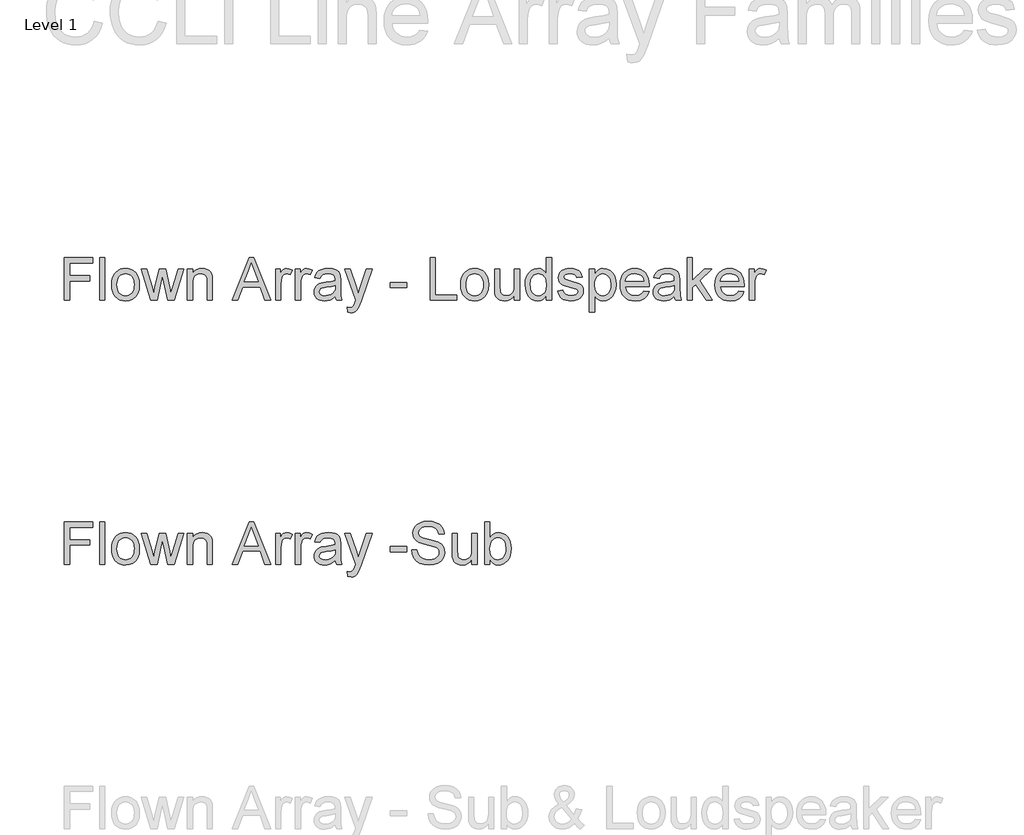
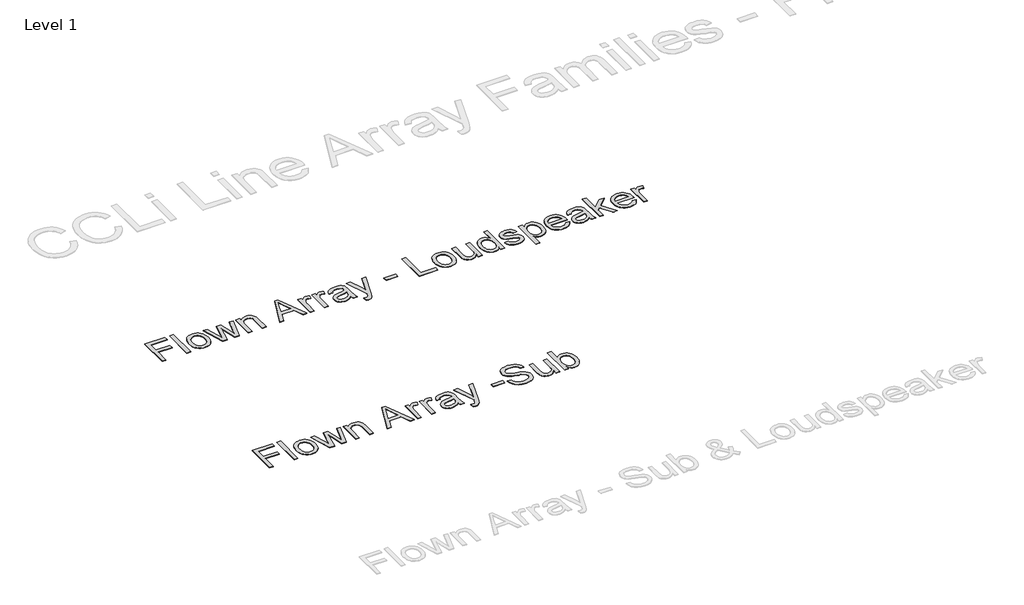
# One storey, part 27 of 31: 2 proxies.
"""IFC4 building model written with IfcOpenShell, lengths in millimetres."""

from ifc_helpers import new_model, si_unit, origin, origin_with_axes, place, context, project, spatial, polyline, outline, extrude, element, save

model = new_model("IFC4")

# Units and contexts
model_context = context("Model", 3, world=origin())
ifc_project = project(units=[si_unit("LENGTHUNIT", "METRE", prefix="MILLI")], contexts=[model_context])

# Site, building, storey
site = spatial("IfcSite", under=ifc_project)
building = spatial("IfcBuilding", under=site)
storey = spatial("IfcBuildingStorey", under=building, Name="Level 1", Elevation=0.0)

# Proxies
placement = place(None, origin())
element("IfcBuildingElementProxy", 1, Name="400mm Arial", ObjectType="400mm Arial", at=placement, inside=storey, context=model_context, shape_type="SweptSolid", body=[
    extrude(outline(polyline([(1720.3436653, 6663.8227268), (1720.3436653, 7065.6479674), (1990.3199988, 7065.6479674), (1990.3199988, 7015.4198123), (1770.5718204, 7015.4198123), (1770.5718204, 6896.127944), (1958.9274019, 6896.127944), (1958.9274019, 6845.899789), (1770.5718204, 6845.899789), (1770.5718204, 6663.8227268), (1720.3436653, 6663.8227268)])), origin_with_axes(), (0.0, 0.0, 1.0), 5.0),
    extrude(outline(polyline([(2053.1051927, 6663.8227268), (2053.1051927, 7065.6479674), (2103.3333477, 7065.6479674), (2103.3333477, 6663.8227268), (2053.1051927, 6663.8227268)])), origin_with_axes(), (0.0, 0.0, 1.0), 5.0),
    extrude(outline(polyline([(2166.1185416, 6811.3679324), (2168.834737, 6849.5847403), (2176.9833232, 6882.5163102), (2190.5643002, 6910.1626422), (2209.5776679, 6932.5237361), (2228.7197944, 6946.8159516), (2249.8484837, 6957.024677), (2272.9637357, 6963.1499122), (2298.0655505, 6965.1916573), (2325.7762618, 6962.7053881), (2350.8320914, 6955.2465807), (2373.2330392, 6942.8152349), (2392.9791053, 6925.4113509), (2409.0954024, 6903.6235397), (2420.6070431, 6878.0404126), (2427.5140276, 6848.6619696), (2429.8163557, 6815.4882107), (2425.7451283, 6764.7450208), (2413.5314461, 6726.1174113), (2393.5309283, 6697.1896238), (2366.0991942, 6675.5458997), (2333.5171121, 6662.0446305), (2298.0655505, 6657.5442074), (2269.950169, 6660.0212795), (2244.6613476, 6667.4524958), (2222.1990861, 6679.8378563), (2202.5633846, 6697.177361), (2186.6187658, 6719.1767044), (2175.2297523, 6745.5415807), (2168.3963443, 6776.27199), (2166.1185416, 6811.3679324)]), holes=[polyline([(2216.3466967, 6811.4660342), (2217.7998305, 6787.1030491), (2222.1592322, 6766.0080823), (2229.4249016, 6748.181134), (2239.5968388, 6733.622204), (2251.9699365, 6722.3128984), (2265.8390877, 6714.2348229), (2281.2042924, 6709.3879776), (2298.0655505, 6707.7723625), (2314.8409695, 6709.3971747), (2330.1448605, 6714.2716111), (2343.9772235, 6722.3956718), (2356.3380586, 6733.7693568), (2366.5099957, 6748.4723739), (2373.7756651, 6766.5844308), (2378.1350668, 6788.1055275), (2379.5882007, 6813.0356641), (2378.1258697, 6836.626097), (2373.7388769, 6857.1692408), (2366.4272223, 6874.6650953), (2356.1909058, 6889.1136607), (2343.7840855, 6900.4229663), (2329.9609195, 6908.5010418), (2314.7214079, 6913.3478871), (2298.0655505, 6914.9635022), (2281.2042924, 6913.3540185), (2265.8390877, 6908.5255673), (2251.9699365, 6900.4781486), (2239.5968388, 6889.2117625), (2229.4249016, 6874.6957521), (2222.1592322, 6856.8994606), (2217.7998305, 6835.822888), (2216.3466967, 6811.4660342)])]), origin_with_axes(), (0.0, 0.0, 1.0), 5.0),
    extrude(outline(polyline([(2535.6682685, 6663.8227268), (2445.5126542, 6958.9131379), (2497.6047447, 6958.9131379), (2548.6177147, 6786.7443641), (2563.8235038, 6725.2344945), (2576.2824407, 6784.4880212), (2616.7985111, 6958.9131379), (2676.4444453, 6958.9131379), (2716.9605157, 6784.9785306), (2728.0460265, 6731.3168102), (2743.9385287, 6787.9215865), (2794.9514987, 6958.9131379), (2847.3378948, 6958.9131379), (2756.8879749, 6663.8227268), (2696.2610221, 6663.8227268), (2657.6088871, 6836.8744174), (2646.4252745, 6890.8304433), (2596.6876287, 6663.8227268), (2535.6682685, 6663.8227268)])), origin_with_axes(), (0.0, 0.0, 1.0), 5.0),
    extrude(outline(polyline([(2881.8697514, 6663.8227268), (2881.8697514, 6958.9131379), (2932.0979065, 6958.9131379), (2932.0979065, 6917.7103544), (2949.5477758, 6938.4834244), (2970.5047868, 6953.3213316), (2994.9689395, 6962.2240758), (3022.9402338, 6965.1916573), (3047.6986921, 6962.8004243), (3070.3724857, 6955.6267254), (3089.2816203, 6944.5657401), (3102.7461013, 6930.5126479), (3111.8818375, 6913.5042369), (3117.8047376, 6893.5772955), (3120.453488, 6845.0168722), (3120.453488, 6663.8227268), (3070.2253329, 6663.8227268), (3070.2253329, 6838.2478435), (3068.7783304, 6864.2203123), (3064.4373229, 6882.6879885), (3056.4297581, 6895.9194776), (3043.9830839, 6906.1833852), (3028.0292681, 6912.768473), (3009.5002783, 6914.9635022), (2980.0819814, 6910.0338835), (2955.004692, 6895.2450273), (2944.9829734, 6883.1723664), (2937.8246029, 6866.672859), (2933.5295806, 6845.7465048), (2932.0979065, 6820.393304), (2932.0979065, 6663.8227268), (2881.8697514, 6663.8227268)])), origin_with_axes(), (0.0, 0.0, 1.0), 5.0),
    extrude(outline(polyline([(3306.0622173, 6663.8227268), (3466.4587672, 7065.6479674), (3509.2311805, 7065.6479674), (3669.5296285, 6663.8227268), (3616.4565194, 6663.8227268), (3570.5448464, 6789.3931145), (3404.9488976, 6789.3931145), (3359.0372246, 6663.8227268), (3306.0622173, 6663.8227268)]), holes=[polyline([(3423.3920483, 6839.6212696), (3552.1997975, 6839.6212696), (3515.9021074, 6938.409848), (3487.746872, 7015.4198123), (3462.7308963, 6947.0428122), (3423.3920483, 6839.6212696)])]), origin_with_axes(), (0.0, 0.0, 1.0), 5.0),
    extrude(outline(polyline([(3716.9128295, 6663.8227268), (3716.9128295, 6958.9131379), (3760.8624652, 6958.9131379), (3760.8624652, 6915.2578078), (3777.0983239, 6940.5680891), (3792.0588584, 6955.4795726), (3807.0684438, 6962.7636361), (3823.4514553, 6965.1916573), (3848.467431, 6961.3166336), (3873.8758141, 6949.6915625), (3857.1003951, 6904.6628063), (3839.4420594, 6912.3883282), (3821.7837236, 6914.9635022), (3806.7864009, 6912.4864301), (3793.3832336, 6905.0552138), (3782.5552402, 6893.233939), (3775.2834394, 6877.5866915), (3769.1765983, 6849.529558), (3767.1409846, 6818.921776), (3767.1409846, 6663.8227268), (3716.9128295, 6663.8227268)])), origin_with_axes(), (0.0, 0.0, 1.0), 5.0),
    extrude(outline(polyline([(3905.2684111, 6663.8227268), (3905.2684111, 6958.9131379), (3949.2180467, 6958.9131379), (3949.2180467, 6915.2578078), (3965.4539055, 6940.5680891), (3980.4144399, 6955.4795726), (3995.4240253, 6962.7636361), (4011.8070369, 6965.1916573), (4036.8230125, 6961.3166336), (4062.2313957, 6949.6915625), (4045.4559767, 6904.6628063), (4027.7976409, 6912.3883282), (4010.1393051, 6914.9635022), (3995.1419825, 6912.4864301), (3981.7388151, 6905.0552138), (3970.9108217, 6893.233939), (3963.639021, 6877.5866915), (3957.5321798, 6849.529558), (3955.4965661, 6818.921776), (3955.4965661, 6663.8227268), (3905.2684111, 6663.8227268)])), origin_with_axes(), (0.0, 0.0, 1.0), 5.0),
    extrude(outline(polyline([(4281.9795741, 6701.4938431), (4257.9814053, 6680.9169769), (4233.271998, 6667.4524958), (4207.2872664, 6660.0212795), (4179.4631248, 6657.5442074), (4157.0989652, 6659.0341295), (4137.4877891, 6663.5038958), (4120.6295967, 6670.9535062), (4106.5243879, 6681.3829607), (4095.3867605, 6694.1300719), (4087.4313123, 6708.532652), (4082.6580434, 6724.5907011), (4081.0669538, 6742.3042191), (4083.4704495, 6763.1263401), (4090.6809366, 6782.0354746), (4101.8032356, 6798.2222824), (4115.942167, 6810.877423), (4132.5581704, 6820.4423549), (4151.1116857, 6827.3585364), (4194.5708121, 6834.91238), (4245.9271386, 6842.8586311), (4281.6852685, 6852.1783084), (4281.9795741, 6863.361921), (4278.5214834, 6885.7781972), (4268.1472111, 6900.4444261), (4244.9461199, 6911.3337332), (4212.6215553, 6914.9635022), (4182.7004863, 6912.5477438), (4161.804789, 6905.3004685), (4147.5554931, 6891.8973011), (4137.5736283, 6871.0138665), (4087.3454732, 6877.2923859), (4096.0642765, 6904.7609082), (4109.0750364, 6926.3433186), (4127.5917635, 6942.8489574), (4152.8284683, 6955.0871651), (4183.6937677, 6962.6655342), (4219.0962784, 6965.1916573), (4253.0517866, 6962.9598398), (4279.9684859, 6956.2643875), (4300.2633093, 6946.1966836), (4314.3531897, 6933.8481113), (4323.6973924, 6918.5810085), (4329.7551826, 6899.7577131), (4332.2077292, 6855.8080774), (4332.2077292, 6793.3171891), (4334.7583777, 6706.0555799), (4344.764768, 6663.8227268), (4294.5366129, 6663.8227268), (4286.4922599, 6681.2848589), (4281.9795741, 6701.4938431)]), holes=[polyline([(4281.9795741, 6801.9501533), (4248.2325324, 6793.5869693), (4200.9474333, 6786.5481604), (4157.7335616, 6778.4057056), (4146.4886353, 6772.8384247), (4138.1622395, 6765.1619538), (4133.0118915, 6755.9649039), (4131.2951089, 6745.8358863), (4135.0352425, 6730.8998773), (4146.2556434, 6718.6616696), (4164.7110568, 6710.4946893), (4190.1562281, 6707.7723625), (4217.1342411, 6710.7767321), (4240.9729944, 6719.789841), (4260.2990619, 6733.070381), (4273.7390174, 6748.8770441), (4279.6987057, 6765.1619538), (4281.6852685, 6787.7253828), (4281.9795741, 6801.9501533)])]), origin_with_axes(), (0.0, 0.0, 1.0), 5.0),
    extrude(outline(polyline([(4401.2714424, 6550.8093779), (4394.992923, 6599.1735975), (4420.499408, 6594.7590136), (4433.9148381, 6596.1447024), (4444.3381613, 6600.301769), (4458.9553393, 6615.7528128), (4472.6896004, 6652.737216), (4476.613675, 6664.9018473), (4369.8788455, 6958.9131379), (4422.7557509, 6958.9131379), (4479.4586291, 6794.9849208), (4499.1771041, 6729.4528748), (4518.895579, 6787.4310772), (4577.0699852, 6958.9131379), (4629.5544832, 6958.9131379), (4526.8418301, 6656.7593925), (4500.1581227, 6591.2273464), (4486.497438, 6570.3071236), (4471.0218687, 6555.812573), (4453.0692273, 6547.3512871), (4431.9773263, 6544.5308585), (4401.2714424, 6550.8093779)])), origin_with_axes(), (0.0, 0.0, 1.0), 5.0),
    extrude(outline(polyline([(4803.096683, 6783.1145951), (4803.096683, 6833.3427502), (4960.0596676, 6833.3427502), (4960.0596676, 6783.1145951), (4803.096683, 6783.1145951)])), origin_with_axes(), (0.0, 0.0, 1.0), 5.0),
    extrude(outline(polyline([(5179.8078461, 6663.8227268), (5179.8078461, 7065.6479674), (5230.0360011, 7065.6479674), (5230.0360011, 6714.0508819), (5430.9486214, 6714.0508819), (5430.9486214, 6663.8227268), (5179.8078461, 6663.8227268)])), origin_with_axes(), (0.0, 0.0, 1.0), 5.0),
    extrude(outline(polyline([(5468.6197378, 6811.3679324), (5471.3359332, 6849.5847403), (5479.4845193, 6882.5163102), (5493.0654963, 6910.1626422), (5512.0788641, 6932.5237361), (5531.2209906, 6946.8159516), (5552.3496799, 6957.024677), (5575.4649319, 6963.1499122), (5600.5667467, 6965.1916573), (5628.277458, 6962.7053881), (5653.3332875, 6955.2465807), (5675.7342354, 6942.8152349), (5695.4803014, 6925.4113509), (5711.5965985, 6903.6235397), (5723.1082393, 6878.0404126), (5730.0152237, 6848.6619696), (5732.3175519, 6815.4882107), (5728.2463245, 6764.7450208), (5716.0326422, 6726.1174113), (5696.0321244, 6697.1896238), (5668.6003903, 6675.5458997), (5636.0183083, 6662.0446305), (5600.5667467, 6657.5442074), (5572.4513652, 6660.0212795), (5547.1625437, 6667.4524958), (5524.7002822, 6679.8378563), (5505.0645807, 6697.177361), (5489.1199619, 6719.1767044), (5477.7309485, 6745.5415807), (5470.8975404, 6776.27199), (5468.6197378, 6811.3679324)]), holes=[polyline([(5518.8478928, 6811.4660342), (5520.3010267, 6787.1030491), (5524.6604284, 6766.0080823), (5531.9260978, 6748.181134), (5542.0980349, 6733.622204), (5554.4711327, 6722.3128984), (5568.3402839, 6714.2348229), (5583.7054886, 6709.3879776), (5600.5667467, 6707.7723625), (5617.3421657, 6709.3971747), (5632.6460567, 6714.2716111), (5646.4784197, 6722.3956718), (5658.8392547, 6733.7693568), (5669.0111919, 6748.4723739), (5676.2768613, 6766.5844308), (5680.6362629, 6788.1055275), (5682.0893968, 6813.0356641), (5680.6270659, 6836.626097), (5676.2400731, 6857.1692408), (5668.9284184, 6874.6650953), (5658.6921019, 6889.1136607), (5646.2852816, 6900.4229663), (5632.4621157, 6908.5010418), (5617.222604, 6913.3478871), (5600.5667467, 6914.9635022), (5583.7054886, 6913.3540185), (5568.3402839, 6908.5255673), (5554.4711327, 6900.4781486), (5542.0980349, 6889.2117625), (5531.9260978, 6874.6957521), (5524.6604284, 6856.8994606), (5520.3010267, 6835.822888), (5518.8478928, 6811.4660342)])]), origin_with_axes(), (0.0, 0.0, 1.0), 5.0),
    extrude(outline(polyline([(5977.1798079, 6663.8227268), (5977.1798079, 6714.5413912), (5959.0064373, 6689.6051233), (5937.8409599, 6671.7935034), (5913.6833755, 6661.1065314), (5886.5336843, 6657.5442074), (5862.0695316, 6660.045805), (5839.2976361, 6667.5505977), (5820.1922978, 6678.8323122), (5806.7278168, 6692.6646752), (5797.665657, 6709.4646197), (5791.7672823, 6729.6490785), (5788.8242264, 6776.3455664), (5788.8242264, 6958.9131379), (5839.0523814, 6958.9131379), (5839.0523814, 6799.988116), (5842.0935393, 6748.7789422), (5849.414391, 6731.6969549), (5861.959167, 6718.7107205), (5878.8940015, 6710.506952), (5899.3850286, 6707.7723625), (5921.0532782, 6710.5682657), (5941.3235761, 6718.9559752), (5958.0376814, 6732.1629388), (5969.0373531, 6749.4166044), (5975.1441942, 6773.0468912), (5977.1798079, 6805.3837186), (5977.1798079, 6958.9131379), (6027.407963, 6958.9131379), (6027.407963, 6663.8227268), (5977.1798079, 6663.8227268)])), origin_with_axes(), (0.0, 0.0, 1.0), 5.0),
    extrude(outline(polyline([(6278.5487383, 6663.8227268), (6278.5487383, 6711.2059278), (6263.5207588, 6687.7289251), (6245.3167314, 6670.9596375), (6223.9366562, 6660.898065), (6199.380533, 6657.5442074), (6166.9088155, 6662.4002498), (6137.1839503, 6676.9683768), (6112.0208219, 6700.2307816), (6093.2343146, 6731.1696574), (6081.5356672, 6768.5342054), (6077.636118, 6811.0736268), (6081.2290989, 6853.0857506), (6092.0080413, 6891.026647), (6109.9606827, 6922.738075), (6135.0747602, 6946.0617935), (6165.4495503, 6960.4091913), (6199.1843292, 6965.1916573), (6223.7588465, 6961.7703547), (6245.4884097, 6951.506447), (6263.9070349, 6935.7733604), (6278.5487383, 6915.9445208), (6278.5487383, 7065.6479674), (6328.7768934, 7065.6479674), (6328.7768934, 6663.8227268), (6278.5487383, 6663.8227268)]), holes=[polyline([(6127.8642731, 6811.2698305), (6129.2806188, 6786.9129767), (6133.5296558, 6765.8364041), (6140.6113842, 6748.0401126), (6150.525804, 6733.5241022), (6175.2229486, 6714.2102974), (6189.0982312, 6709.3818462), (6203.9913206, 6707.7723625), (6218.9549208, 6709.3082698), (6232.7474299, 6713.9159918), (6256.8191752, 6732.3468798), (6266.325859, 6746.2558849), (6273.1163475, 6763.4083829), (6278.5487383, 6807.4438577), (6273.0182457, 6855.5873482), (6266.1051298, 6874.1224694), (6256.4267677, 6888.9665079), (6244.7250546, 6900.3401929), (6231.7418858, 6908.4642536), (6217.4772615, 6913.33869), (6201.9311815, 6914.9635022), (6186.7437864, 6913.4030694), (6172.8685039, 6908.721771), (6160.3053337, 6900.919607), (6149.054276, 6889.9965775), (6139.7836498, 6875.713559), (6133.1617738, 6857.8314283), (6127.8642731, 6811.2698305)])]), origin_with_axes(), (0.0, 0.0, 1.0), 5.0),
    extrude(outline(polyline([(6385.2835679, 6751.7219982), (6435.5117229, 6758.0005176), (6443.4334486, 6736.5162091), (6458.761865, 6720.7218087), (6481.5950742, 6711.0097241), (6512.0311779, 6707.7723625), (6542.0993997, 6710.7399439), (6563.2403517, 6719.6426882), (6575.7483395, 6732.5430835), (6579.9176688, 6747.503618), (6575.723814, 6760.3059114), (6563.1422498, 6770.067047), (6511.4425667, 6784.3899194), (6435.8060285, 6808.9644366), (6416.6639021, 6821.313009), (6402.7947508, 6837.6592323), (6394.3702532, 6856.9607743), (6391.5620873, 6878.1753027), (6393.8184302, 6897.6362602), (6400.5874589, 6915.6011643), (6411.2560367, 6931.3587764), (6425.2110271, 6944.1978581), (6457.1431843, 6959.0602907), (6478.0266189, 6963.6588156), (6500.357056, 6965.1916573), (6533.0495026, 6962.7268479), (6561.4745181, 6955.3324198), (6584.3322527, 6943.7318742), (6600.3228568, 6928.6487124), (6610.9178582, 6908.9670257), (6617.5887851, 6883.5709053), (6567.36063, 6877.2923859), (6561.020797, 6893.0990489), (6548.4760209, 6905.0061629), (6529.6036746, 6912.4741674), (6504.2811306, 6914.9635022), (6475.4391822, 6912.584532), (6456.2112165, 6905.4476213), (6445.3954859, 6895.1469254), (6441.7902423, 6883.2765997), (6447.7744561, 6868.6594217), (6466.5119124, 6857.5739109), (6509.774835, 6846.8808076), (6583.4983869, 6823.2382581), (6602.9716071, 6811.9320181), (6617.7359379, 6796.4564488), (6627.0433524, 6776.7624993), (6630.1458239, 6752.8011187), (6626.5037921, 6728.0303977), (6615.5776969, 6704.7312047), (6597.784471, 6684.7306869), (6573.5410475, 6669.8559915), (6544.2576407, 6660.6221535), (6511.3444649, 6657.5442074), (6484.3112696, 6659.0279981), (6460.6993769, 6663.4793703), (6440.5087867, 6670.8983239), (6423.7394991, 6681.2848589), (6410.0420261, 6694.5899243), (6399.06688, 6710.7644694), (6390.8140605, 6729.808494), (6385.2835679, 6751.7219982)])), origin_with_axes(), (0.0, 0.0, 1.0), 5.0),
    extrude(outline(polyline([(6686.6524983, 6550.8093779), (6686.6524983, 6958.9131379), (6736.8806534, 6958.9131379), (6736.8806534, 6909.6660015), (6753.2636649, 6933.9584759), (6771.6087137, 6951.3102433), (6792.9949204, 6961.7213038), (6818.5014054, 6965.1916573), (6852.4691763, 6960.3356149), (6882.169516, 6945.7674879), (6906.3516258, 6922.370193), (6923.7647069, 6891.026647), (6934.286132, 6854.0177183), (6937.7932737, 6813.6242753), (6933.8324109, 6770.667921), (6921.9498224, 6732.2487779), (6902.5256531, 6700.3166207), (6875.9400476, 6676.821224), (6844.9766463, 6662.3634616), (6812.4190897, 6657.5442074), (6789.3283632, 6660.7693063), (6768.7147087, 6670.4446027), (6751.0686357, 6685.0495179), (6736.8806534, 6703.063473), (6736.8806534, 6550.8093779), (6686.6524983, 6550.8093779)]), holes=[polyline([(6736.8806534, 6809.0134876), (6742.3130442, 6763.9847314), (6749.1035327, 6746.5471248), (6758.6102166, 6732.4940326), (6782.6574363, 6713.95278), (6796.4192886, 6709.3174669), (6811.3399692, 6707.7723625), (6826.4752476, 6709.3726492), (6840.488486, 6714.1735092), (6853.3796842, 6722.1749426), (6865.1488424, 6733.3769494), (6874.9559632, 6747.938945), (6881.9610496, 6766.0203451), (6886.1641014, 6787.6211496), (6887.5651186, 6812.7413585), (6882.0959396, 6857.52486), (6875.2594659, 6875.0973566), (6865.6884026, 6889.4570172), (6841.6779711, 6908.5868809), (6828.0724686, 6913.3693469), (6813.4001084, 6914.9635022), (6798.7737334, 6913.2681793), (6785.0118811, 6908.1822107), (6760.0817446, 6887.8383364), (6749.9312672, 6872.7398462), (6742.6809262, 6854.5695413), (6738.3307216, 6833.3274218), (6736.8806534, 6809.0134876)])]), origin_with_axes(), (0.0, 0.0, 1.0), 5.0),
    extrude(outline(polyline([(7200.9024766, 6751.7219982), (7250.1496131, 6745.4434788), (7242.5988351, 6725.7188725), (7232.4054382, 6708.3364482), (7219.5694222, 6693.296206), (7204.0907873, 6680.5981458), (7186.1289489, 6670.5120478), (7165.8433225, 6663.307692), (7118.300706, 6657.5442074), (7087.1349696, 6660.0304766), (7059.3660104, 6667.489284), (7034.9938282, 6679.9206298), (7014.0184231, 6697.3245138), (6997.1510336, 6719.2165582), (6985.1028983, 6745.112385), (6977.8740171, 6775.0119942), (6975.46439, 6808.9153857), (6977.8985425, 6843.9684085), (6985.2010001, 6874.8643647), (6997.3717628, 6901.6032544), (7014.4108306, 6924.1850775), (7035.3310533, 6942.1254562), (7059.1452812, 6954.9400123), (7085.853514, 6962.628746), (7115.4557519, 6965.1916573), (7144.1045623, 6962.6348774), (7170.0126518, 6954.9645378), (7193.1800204, 6942.1806385), (7213.6066682, 6924.2831794), (7230.2809196, 6901.7504072), (7242.1910992, 6875.0605685), (7249.337207, 6844.2136632), (7251.7192429, 6809.2096913), (7251.4249373, 6795.6716339), (7025.6925451, 6795.6716339), (7028.6018785, 6775.6281965), (7034.3868229, 6758.074094), (7043.0473782, 6743.0093263), (7054.5835444, 6730.4338934), (7068.3576595, 6720.5194736), (7083.7320612, 6713.4377452), (7119.2817246, 6707.7723625), (7146.014483, 6710.3965874), (7168.5288611, 6718.2692621), (7186.824859, 6731.8808959), (7200.9024766, 6751.7219982)]), holes=[polyline([(7025.6925451, 6845.899789), (7201.4910878, 6845.899789), (7194.6975337, 6872.4363436), (7181.3802054, 6891.4190545), (7167.6827325, 6901.7197504), (7152.0967986, 6909.0773903), (7134.6224038, 6913.4919742), (7115.2595482, 6914.9635022), (7081.4021419, 6910.2668754), (7053.406322, 6896.176995), (7033.9453645, 6874.2144399), (7025.6925451, 6845.899789)])]), origin_with_axes(), (0.0, 0.0, 1.0), 5.0),
    extrude(outline(polyline([(7490.3029795, 6701.4938431), (7466.3048107, 6680.9169769), (7441.5954034, 6667.4524958), (7415.6106718, 6660.0212795), (7387.7865302, 6657.5442074), (7365.4223706, 6659.0341295), (7345.8111945, 6663.5038958), (7328.9530021, 6670.9535062), (7314.8477933, 6681.3829607), (7303.7101659, 6694.1300719), (7295.7547177, 6708.532652), (7290.9814488, 6724.5907011), (7289.3903592, 6742.3042191), (7291.7938549, 6763.1263401), (7299.004342, 6782.0354746), (7310.126641, 6798.2222824), (7324.2655724, 6810.877423), (7340.8815758, 6820.4423549), (7359.4350911, 6827.3585364), (7402.8942175, 6834.91238), (7454.250544, 6842.8586311), (7490.0086739, 6852.1783084), (7490.3029795, 6863.361921), (7486.8448888, 6885.7781972), (7476.4706165, 6900.4444261), (7453.2695253, 6911.3337332), (7420.9449607, 6914.9635022), (7391.0238918, 6912.5477438), (7370.1281944, 6905.3004685), (7355.8788985, 6891.8973011), (7345.8970337, 6871.0138665), (7295.6688786, 6877.2923859), (7304.3876819, 6904.7609082), (7317.3984418, 6926.3433186), (7335.9151689, 6942.8489574), (7361.1518737, 6955.0871651), (7392.0171731, 6962.6655342), (7427.4196838, 6965.1916573), (7461.375192, 6962.9598398), (7488.2918913, 6956.2643875), (7508.5867147, 6946.1966836), (7522.6765951, 6933.8481113), (7532.0207978, 6918.5810085), (7538.078588, 6899.7577131), (7540.5311346, 6855.8080774), (7540.5311346, 6793.3171891), (7543.0817831, 6706.0555799), (7553.0881734, 6663.8227268), (7502.8600183, 6663.8227268), (7494.8156653, 6681.2848589), (7490.3029795, 6701.4938431)]), holes=[polyline([(7490.3029795, 6801.9501533), (7456.5559378, 6793.5869693), (7409.2708387, 6786.5481604), (7366.056967, 6778.4057056), (7354.8120407, 6772.8384247), (7346.4856449, 6765.1619538), (7341.3352969, 6755.9649039), (7339.6185143, 6745.8358863), (7343.3586479, 6730.8998773), (7354.5790488, 6718.6616696), (7373.0344622, 6710.4946893), (7398.4796335, 6707.7723625), (7425.4576465, 6710.7767321), (7449.2963998, 6719.789841), (7468.6224673, 6733.070381), (7482.0624228, 6748.8770441), (7488.0221111, 6765.1619538), (7490.0086739, 6787.7253828), (7490.3029795, 6801.9501533)])]), origin_with_axes(), (0.0, 0.0, 1.0), 5.0),
    extrude(outline(polyline([(7609.5948478, 6663.8227268), (7609.5948478, 7065.6479674), (7659.8230029, 7065.6479674), (7659.8230029, 6849.7257617), (7772.4439443, 6958.9131379), (7841.900065, 6958.9131379), (7727.8075956, 6848.3523356), (7848.1785844, 6663.8227268), (7789.5136689, 6663.8227268), (7691.804211, 6813.4280715), (7659.8230029, 6782.3297802), (7659.8230029, 6663.8227268), (7609.5948478, 6663.8227268)])), origin_with_axes(), (0.0, 0.0, 1.0), 5.0),
    extrude(outline(polyline([(8098.7307486, 6751.7219982), (8147.977885, 6745.4434788), (8140.4271071, 6725.7188725), (8130.2337101, 6708.3364482), (8117.3976942, 6693.296206), (8101.9190592, 6680.5981458), (8083.9572208, 6670.5120478), (8063.6715945, 6663.307692), (8016.128978, 6657.5442074), (7984.9632416, 6660.0304766), (7957.1942823, 6667.489284), (7932.8221001, 6679.9206298), (7911.8466951, 6697.3245138), (7894.9793056, 6719.2165582), (7882.9311702, 6745.112385), (7875.702289, 6775.0119942), (7873.292662, 6808.9153857), (7875.7268145, 6843.9684085), (7883.0292721, 6874.8643647), (7895.2000348, 6901.6032544), (7912.2391025, 6924.1850775), (7933.1593253, 6942.1254562), (7956.9735531, 6954.9400123), (7983.681786, 6962.628746), (8013.2840239, 6965.1916573), (8041.9328342, 6962.6348774), (8067.8409237, 6954.9645378), (8091.0082924, 6942.1806385), (8111.4349402, 6924.2831794), (8128.1091916, 6901.7504072), (8140.0193712, 6875.0605685), (8147.165479, 6844.2136632), (8149.5475149, 6809.2096913), (8149.2532093, 6795.6716339), (7923.520817, 6795.6716339), (7926.4301505, 6775.6281965), (7932.2150949, 6758.074094), (7940.8756502, 6743.0093263), (7952.4118164, 6730.4338934), (7966.1859314, 6720.5194736), (7981.5603331, 6713.4377452), (8017.1099966, 6707.7723625), (8043.8427549, 6710.3965874), (8066.357133, 6718.2692621), (8084.6531309, 6731.8808959), (8098.7307486, 6751.7219982)]), holes=[polyline([(7923.520817, 6845.899789), (8099.3193598, 6845.899789), (8092.5258056, 6872.4363436), (8079.2084774, 6891.4190545), (8065.5110044, 6901.7197504), (8049.9250706, 6909.0773903), (8032.4506758, 6913.4919742), (8013.0878201, 6914.9635022), (7979.2304138, 6910.2668754), (7951.234594, 6896.176995), (7931.7736365, 6874.2144399), (7923.520817, 6845.899789)])]), origin_with_axes(), (0.0, 0.0, 1.0), 5.0),
    extrude(outline(polyline([(8199.7756699, 6663.8227268), (8199.7756699, 6958.9131379), (8243.7253056, 6958.9131379), (8243.7253056, 6915.2578078), (8259.9611644, 6940.5680891), (8274.9216988, 6955.4795726), (8289.9312842, 6962.7636361), (8306.3142957, 6965.1916573), (8331.3302714, 6961.3166336), (8356.7386546, 6949.6915625), (8339.9632356, 6904.6628063), (8322.3048998, 6912.3883282), (8304.646564, 6914.9635022), (8289.6492414, 6912.4864301), (8276.246074, 6905.0552138), (8265.4180806, 6893.233939), (8258.1462798, 6877.5866915), (8252.0394387, 6849.529558), (8250.003825, 6818.921776), (8250.003825, 6663.8227268), (8199.7756699, 6663.8227268)])), origin_with_axes(), (0.0, 0.0, 1.0), 5.0),
])
element("IfcBuildingElementProxy", 2, Name="400mm Arial", ObjectType="400mm Arial", at=placement, inside=storey, context=model_context, shape_type="SweptSolid", body=[
    extrude(outline(polyline([(1720.3436653, 4163.8227268), (1720.3436653, 4565.6479674), (1990.3199988, 4565.6479674), (1990.3199988, 4515.4198123), (1770.5718204, 4515.4198123), (1770.5718204, 4396.127944), (1958.9274019, 4396.127944), (1958.9274019, 4345.899789), (1770.5718204, 4345.899789), (1770.5718204, 4163.8227268), (1720.3436653, 4163.8227268)])), origin_with_axes(), (0.0, 0.0, 1.0), 5.0),
    extrude(outline(polyline([(2053.1051927, 4163.8227268), (2053.1051927, 4565.6479674), (2103.3333477, 4565.6479674), (2103.3333477, 4163.8227268), (2053.1051927, 4163.8227268)])), origin_with_axes(), (0.0, 0.0, 1.0), 5.0),
    extrude(outline(polyline([(2166.1185416, 4311.3679324), (2168.834737, 4349.5847403), (2176.9833232, 4382.5163102), (2190.5643002, 4410.1626422), (2209.5776679, 4432.5237361), (2228.7197944, 4446.8159516), (2249.8484837, 4457.024677), (2272.9637357, 4463.1499122), (2298.0655505, 4465.1916573), (2325.7762618, 4462.7053881), (2350.8320914, 4455.2465807), (2373.2330392, 4442.8152349), (2392.9791053, 4425.4113509), (2409.0954024, 4403.6235397), (2420.6070431, 4378.0404126), (2427.5140276, 4348.6619696), (2429.8163557, 4315.4882107), (2425.7451283, 4264.7450208), (2413.5314461, 4226.1174113), (2393.5309283, 4197.1896238), (2366.0991942, 4175.5458997), (2333.5171121, 4162.0446305), (2298.0655505, 4157.5442074), (2269.950169, 4160.0212795), (2244.6613476, 4167.4524958), (2222.1990861, 4179.8378563), (2202.5633846, 4197.177361), (2186.6187658, 4219.1767044), (2175.2297523, 4245.5415807), (2168.3963443, 4276.27199), (2166.1185416, 4311.3679324)]), holes=[polyline([(2216.3466967, 4311.4660342), (2217.7998305, 4287.1030491), (2222.1592322, 4266.0080823), (2229.4249016, 4248.181134), (2239.5968388, 4233.622204), (2251.9699365, 4222.3128984), (2265.8390877, 4214.2348229), (2281.2042924, 4209.3879776), (2298.0655505, 4207.7723625), (2314.8409695, 4209.3971747), (2330.1448605, 4214.2716111), (2343.9772235, 4222.3956718), (2356.3380586, 4233.7693568), (2366.5099957, 4248.4723739), (2373.7756651, 4266.5844308), (2378.1350668, 4288.1055275), (2379.5882007, 4313.0356641), (2378.1258697, 4336.626097), (2373.7388769, 4357.1692408), (2366.4272223, 4374.6650953), (2356.1909058, 4389.1136607), (2343.7840855, 4400.4229663), (2329.9609195, 4408.5010418), (2314.7214079, 4413.3478871), (2298.0655505, 4414.9635022), (2281.2042924, 4413.3540185), (2265.8390877, 4408.5255673), (2251.9699365, 4400.4781486), (2239.5968388, 4389.2117625), (2229.4249016, 4374.6957521), (2222.1592322, 4356.8994606), (2217.7998305, 4335.822888), (2216.3466967, 4311.4660342)])]), origin_with_axes(), (0.0, 0.0, 1.0), 5.0),
    extrude(outline(polyline([(2535.6682685, 4163.8227268), (2445.5126542, 4458.9131379), (2497.6047447, 4458.9131379), (2548.6177147, 4286.7443641), (2563.8235038, 4225.2344945), (2576.2824407, 4284.4880212), (2616.7985111, 4458.9131379), (2676.4444453, 4458.9131379), (2716.9605157, 4284.9785306), (2728.0460265, 4231.3168102), (2743.9385287, 4287.9215865), (2794.9514987, 4458.9131379), (2847.3378948, 4458.9131379), (2756.8879749, 4163.8227268), (2696.2610221, 4163.8227268), (2657.6088871, 4336.8744174), (2646.4252745, 4390.8304433), (2596.6876287, 4163.8227268), (2535.6682685, 4163.8227268)])), origin_with_axes(), (0.0, 0.0, 1.0), 5.0),
    extrude(outline(polyline([(2881.8697514, 4163.8227268), (2881.8697514, 4458.9131379), (2932.0979065, 4458.9131379), (2932.0979065, 4417.7103544), (2949.5477758, 4438.4834244), (2970.5047868, 4453.3213316), (2994.9689395, 4462.2240758), (3022.9402338, 4465.1916573), (3047.6986921, 4462.8004243), (3070.3724857, 4455.6267254), (3089.2816203, 4444.5657401), (3102.7461013, 4430.5126479), (3111.8818375, 4413.5042369), (3117.8047376, 4393.5772955), (3120.453488, 4345.0168722), (3120.453488, 4163.8227268), (3070.2253329, 4163.8227268), (3070.2253329, 4338.2478435), (3068.7783304, 4364.2203123), (3064.4373229, 4382.6879885), (3056.4297581, 4395.9194776), (3043.9830839, 4406.1833852), (3028.0292681, 4412.768473), (3009.5002783, 4414.9635022), (2980.0819814, 4410.0338835), (2955.004692, 4395.2450273), (2944.9829734, 4383.1723664), (2937.8246029, 4366.672859), (2933.5295806, 4345.7465048), (2932.0979065, 4320.393304), (2932.0979065, 4163.8227268), (2881.8697514, 4163.8227268)])), origin_with_axes(), (0.0, 0.0, 1.0), 5.0),
    extrude(outline(polyline([(3306.0622173, 4163.8227268), (3466.4587672, 4565.6479674), (3509.2311805, 4565.6479674), (3669.5296285, 4163.8227268), (3616.4565194, 4163.8227268), (3570.5448464, 4289.3931145), (3404.9488976, 4289.3931145), (3359.0372246, 4163.8227268), (3306.0622173, 4163.8227268)]), holes=[polyline([(3423.3920483, 4339.6212696), (3552.1997975, 4339.6212696), (3515.9021074, 4438.409848), (3487.746872, 4515.4198123), (3462.7308963, 4447.0428122), (3423.3920483, 4339.6212696)])]), origin_with_axes(), (0.0, 0.0, 1.0), 5.0),
    extrude(outline(polyline([(3716.9128295, 4163.8227268), (3716.9128295, 4458.9131379), (3760.8624652, 4458.9131379), (3760.8624652, 4415.2578078), (3777.0983239, 4440.5680891), (3792.0588584, 4455.4795726), (3807.0684438, 4462.7636361), (3823.4514553, 4465.1916573), (3848.467431, 4461.3166336), (3873.8758141, 4449.6915625), (3857.1003951, 4404.6628063), (3839.4420594, 4412.3883282), (3821.7837236, 4414.9635022), (3806.7864009, 4412.4864301), (3793.3832336, 4405.0552138), (3782.5552402, 4393.233939), (3775.2834394, 4377.5866915), (3769.1765983, 4349.529558), (3767.1409846, 4318.921776), (3767.1409846, 4163.8227268), (3716.9128295, 4163.8227268)])), origin_with_axes(), (0.0, 0.0, 1.0), 5.0),
    extrude(outline(polyline([(3905.2684111, 4163.8227268), (3905.2684111, 4458.9131379), (3949.2180467, 4458.9131379), (3949.2180467, 4415.2578078), (3965.4539055, 4440.5680891), (3980.4144399, 4455.4795726), (3995.4240253, 4462.7636361), (4011.8070369, 4465.1916573), (4036.8230125, 4461.3166336), (4062.2313957, 4449.6915625), (4045.4559767, 4404.6628063), (4027.7976409, 4412.3883282), (4010.1393051, 4414.9635022), (3995.1419825, 4412.4864301), (3981.7388151, 4405.0552138), (3970.9108217, 4393.233939), (3963.639021, 4377.5866915), (3957.5321798, 4349.529558), (3955.4965661, 4318.921776), (3955.4965661, 4163.8227268), (3905.2684111, 4163.8227268)])), origin_with_axes(), (0.0, 0.0, 1.0), 5.0),
    extrude(outline(polyline([(4281.9795741, 4201.4938431), (4257.9814053, 4180.9169769), (4233.271998, 4167.4524958), (4207.2872664, 4160.0212795), (4179.4631248, 4157.5442074), (4157.0989652, 4159.0341295), (4137.4877891, 4163.5038958), (4120.6295967, 4170.9535062), (4106.5243879, 4181.3829607), (4095.3867605, 4194.1300719), (4087.4313123, 4208.532652), (4082.6580434, 4224.5907011), (4081.0669538, 4242.3042191), (4083.4704495, 4263.1263401), (4090.6809366, 4282.0354746), (4101.8032356, 4298.2222824), (4115.942167, 4310.877423), (4132.5581704, 4320.4423549), (4151.1116857, 4327.3585364), (4194.5708121, 4334.91238), (4245.9271386, 4342.8586311), (4281.6852685, 4352.1783084), (4281.9795741, 4363.361921), (4278.5214834, 4385.7781972), (4268.1472111, 4400.4444261), (4244.9461199, 4411.3337332), (4212.6215553, 4414.9635022), (4182.7004863, 4412.5477438), (4161.804789, 4405.3004685), (4147.5554931, 4391.8973011), (4137.5736283, 4371.0138665), (4087.3454732, 4377.2923859), (4096.0642765, 4404.7609082), (4109.0750364, 4426.3433186), (4127.5917635, 4442.8489574), (4152.8284683, 4455.0871651), (4183.6937677, 4462.6655342), (4219.0962784, 4465.1916573), (4253.0517866, 4462.9598398), (4279.9684859, 4456.2643875), (4300.2633093, 4446.1966836), (4314.3531897, 4433.8481113), (4323.6973924, 4418.5810085), (4329.7551826, 4399.7577131), (4332.2077292, 4355.8080774), (4332.2077292, 4293.3171891), (4334.7583777, 4206.0555799), (4344.764768, 4163.8227268), (4294.5366129, 4163.8227268), (4286.4922599, 4181.2848589), (4281.9795741, 4201.4938431)]), holes=[polyline([(4281.9795741, 4301.9501533), (4248.2325324, 4293.5869693), (4200.9474333, 4286.5481604), (4157.7335616, 4278.4057056), (4146.4886353, 4272.8384247), (4138.1622395, 4265.1619538), (4133.0118915, 4255.9649039), (4131.2951089, 4245.8358863), (4135.0352425, 4230.8998773), (4146.2556434, 4218.6616696), (4164.7110568, 4210.4946893), (4190.1562281, 4207.7723625), (4217.1342411, 4210.7767321), (4240.9729944, 4219.789841), (4260.2990619, 4233.070381), (4273.7390174, 4248.8770441), (4279.6987057, 4265.1619538), (4281.6852685, 4287.7253828), (4281.9795741, 4301.9501533)])]), origin_with_axes(), (0.0, 0.0, 1.0), 5.0),
    extrude(outline(polyline([(4401.2714424, 4050.8093779), (4394.992923, 4099.1735975), (4420.499408, 4094.7590136), (4433.9148381, 4096.1447024), (4444.3381613, 4100.301769), (4458.9553393, 4115.7528128), (4472.6896004, 4152.737216), (4476.613675, 4164.9018473), (4369.8788455, 4458.9131379), (4422.7557509, 4458.9131379), (4479.4586291, 4294.9849208), (4499.1771041, 4229.4528748), (4518.895579, 4287.4310772), (4577.0699852, 4458.9131379), (4629.5544832, 4458.9131379), (4526.8418301, 4156.7593925), (4500.1581227, 4091.2273464), (4486.497438, 4070.3071236), (4471.0218687, 4055.812573), (4453.0692273, 4047.3512871), (4431.9773263, 4044.5308585), (4401.2714424, 4050.8093779)])), origin_with_axes(), (0.0, 0.0, 1.0), 5.0),
    extrude(outline(polyline([(4803.096683, 4283.1145951), (4803.096683, 4333.3427502), (4960.0596676, 4333.3427502), (4960.0596676, 4283.1145951), (4803.096683, 4283.1145951)])), origin_with_axes(), (0.0, 0.0, 1.0), 5.0),
    extrude(outline(polyline([(5004.0093033, 4301.9501533), (5054.2374584, 4301.9501533), (5060.000943, 4274.0769608), (5070.4242662, 4251.6729473), (5086.6846504, 4233.8919842), (5109.9593179, 4219.8879429), (5138.4088589, 4210.8012576), (5170.1938633, 4207.7723625), (5198.1774204, 4210.0654936), (5222.6783612, 4216.9448869), (5242.5317263, 4227.834194), (5256.5725557, 4242.1570663), (5264.923477, 4258.6013915), (5267.7071175, 4275.8550571), (5265.6224528, 4292.6672643), (5259.3684589, 4307.1986031), (5246.6642673, 4319.5962263), (5225.2290097, 4330.0072868), (5152.0940691, 4349.1862015), (5104.0854687, 4361.8781303), (5073.3673221, 4373.9569225), (5048.3636092, 4390.8549688), (5030.6439598, 4411.3337332), (5020.0857465, 4434.9517573), (5016.5663421, 4461.2675827), (5020.9196124, 4490.6858795), (5033.9794232, 4518.1176136), (5055.402418, 4541.3677557), (5084.8452404, 4558.2412766), (5120.1864374, 4568.5051842), (5159.3045562, 4571.9264868), (5201.6845621, 4568.3457687), (5238.7670672, 4557.6036145), (5269.2276964, 4539.9207532), (5291.7420745, 4515.5179142), (5305.9913704, 4485.9156763), (5311.6567531, 4452.6346185), (5261.4285981, 4452.6346185), (5252.2070227, 4482.6047384), (5243.8438387, 4494.4628014), (5232.9790571, 4504.2361997), (5202.9353608, 4517.3327987), (5161.2665935, 4521.6983317), (5118.6168075, 4517.3818497), (5102.3135038, 4511.9862471), (5089.3579262, 4504.4324034), (5072.4353544, 4485.3761161), (5066.7944972, 4462.7391106), (5070.7921482, 4443.4375686), (5082.7851012, 4427.9129484), (5111.1365403, 4414.0315345), (5164.7982607, 4399.8558149), (5220.1767637, 4386.3913339), (5253.6785507, 4374.6436355), (5282.3120327, 4356.421214), (5302.288025, 4333.9313614), (5314.0234606, 4307.4193323), (5317.9352725, 4277.1303813), (5313.4348495, 4246.1669801), (5299.9335802, 4217.0429888), (5277.9832879, 4191.9779622), (5248.1357953, 4173.191455), (5212.2427753, 4161.4560193), (5172.1559006, 4157.5442074), (5122.9455524, 4161.7625876), (5082.4417447, 4174.4177283), (5050.1784937, 4195.5586803), (5025.6898156, 4225.2344945), (5009.9689916, 4261.3850319), (5004.0093033, 4301.9501533)])), origin_with_axes(), (0.0, 0.0, 1.0), 5.0),
    extrude(outline(polyline([(5575.3545673, 4163.8227268), (5575.3545673, 4214.5413912), (5557.1811967, 4189.6051233), (5536.0157193, 4171.7935034), (5511.8581349, 4161.1065314), (5484.7084437, 4157.5442074), (5460.244291, 4160.045805), (5437.4723955, 4167.5505977), (5418.3670572, 4178.8323122), (5404.9025762, 4192.6646752), (5395.8404164, 4209.4646197), (5389.9420417, 4229.6490785), (5386.9989858, 4276.3455664), (5386.9989858, 4458.9131379), (5437.2271408, 4458.9131379), (5437.2271408, 4299.988116), (5440.2682987, 4248.7789422), (5447.5891504, 4231.6969549), (5460.1339264, 4218.7107205), (5477.0687609, 4210.506952), (5497.559788, 4207.7723625), (5519.2280376, 4210.5682657), (5539.4983355, 4218.9559752), (5556.2124408, 4232.1629388), (5567.2121125, 4249.4166044), (5573.3189536, 4273.0468912), (5575.3545673, 4305.3837186), (5575.3545673, 4458.9131379), (5625.5827224, 4458.9131379), (5625.5827224, 4163.8227268), (5575.3545673, 4163.8227268)])), origin_with_axes(), (0.0, 0.0, 1.0), 5.0),
    extrude(outline(polyline([(5744.8745907, 4163.8227268), (5694.6464356, 4163.8227268), (5694.6464356, 4565.6479674), (5744.8745907, 4565.6479674), (5744.8745907, 4416.6312339), (5761.3924922, 4437.8764191), (5780.0441094, 4453.0515514), (5800.8294421, 4462.1566308), (5823.7484904, 4465.1916573), (5849.6228574, 4462.4570678), (5874.0747474, 4454.2532993), (5895.7062087, 4441.0953866), (5913.1192898, 4423.4983645), (5926.7677118, 4401.6339112), (5937.1051959, 4375.6737051), (5943.6167072, 4346.6968666), (5945.787211, 4315.7825163), (5943.5400651, 4280.1102255), (5936.7986275, 4248.7298913), (5925.5628983, 4221.6415137), (5909.8328773, 4198.8450928), (5890.9513339, 4180.7759554), (5870.2610374, 4167.8694288), (5847.7619877, 4160.1255128), (5823.4541848, 4157.5442074), (5799.7809784, 4160.8735395), (5778.7933106, 4170.8615357), (5760.4911814, 4187.5081959), (5744.8745907, 4210.8135203), (5744.8745907, 4163.8227268)]), holes=[polyline([(5744.8745907, 4313.4280715), (5748.308156, 4271.538575), (5758.6088518, 4243.1871359), (5770.7796145, 4227.6931725), (5784.9246772, 4216.6260559), (5801.04404, 4209.9857858), (5819.1377028, 4207.7723625), (5834.1595509, 4209.403306), (5848.126804, 4214.2961366), (5861.039462, 4222.4508541), (5872.897525, 4233.8674587), (5882.8119448, 4248.5152935), (5889.8936732, 4266.3637016), (5894.1427102, 4287.4126831), (5895.5590559, 4311.6622379), (5890.1266651, 4357.6229619), (5883.3361766, 4375.4161877), (5873.8294927, 4389.7513228), (5862.3975597, 4400.7816513), (5849.8313239, 4408.6604573), (5836.1307853, 4413.387741), (5821.2959438, 4414.9635022), (5806.2740957, 4413.3325587), (5792.3068426, 4408.4397281), (5779.3941845, 4400.2850106), (5767.5361216, 4388.868406), (5757.6217018, 4374.367724), (5750.5399734, 4356.9607743), (5746.2909363, 4336.6475568), (5744.8745907, 4313.4280715)])]), origin_with_axes(), (0.0, 0.0, 1.0), 5.0),
])

save(model, "model.ifc")
